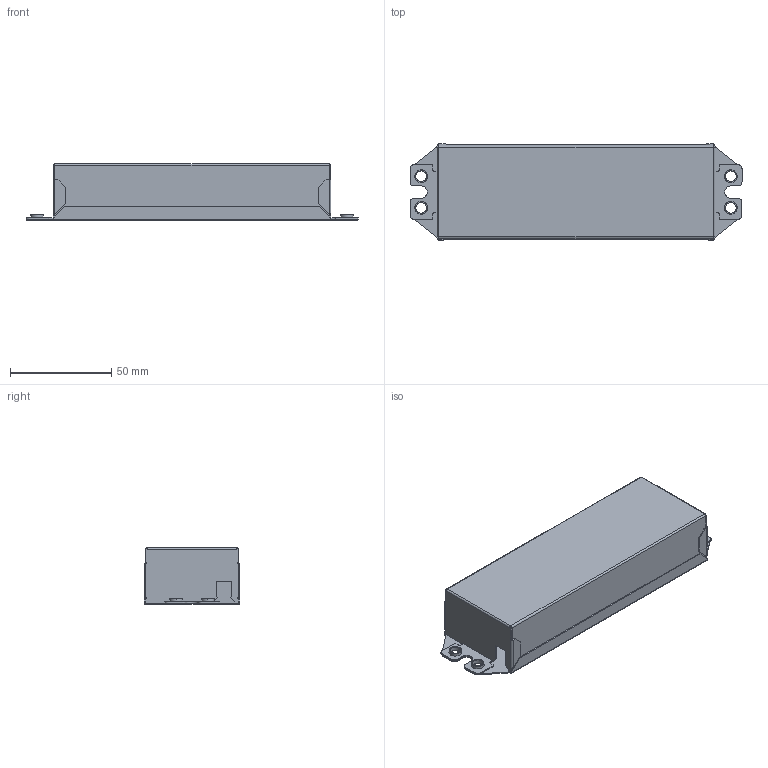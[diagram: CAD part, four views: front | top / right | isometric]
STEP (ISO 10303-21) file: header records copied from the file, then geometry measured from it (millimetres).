
FILE_DESCRIPTION (( 'STEP AP203' ), '1' );
FILE_NAME ('L2.STEP', '2015-09-09T06:59:57', ( '·L³n¥Î¤á' ), ( '·L³n¤¤°ê' ), 'SwSTEP 2.0', 'SolidWorks 2010', '' );
FILE_SCHEMA (( 'CONFIG_CONTROL_DESIGN' ));
Length unit declared in the file: millimetre
Products named in the file (3): L2; 511-00004190; 511-00003920
Assembly tree (2 placements, depth 2):
  L2
    511-00004190
    511-00003920
Bounding box: 164 x 47.4 x 27.9 mm (x, y, z)
Volume: 15230.3 mm3; surface area: 51622 mm2
Topology: 2 solids, 2 shells, 294 faces, 754 edges, 468 vertices
Faces by surface type: plane 196, cylinder 90, torus 8
Entity records: 9119 total; most frequent: DIRECTION 1548, CARTESIAN_POINT 1521, ORIENTED_EDGE 1508, EDGE_CURVE 754, VECTOR 558, LINE 558, AXIS2_PLACEMENT_3D 495, VERTEX_POINT 468
